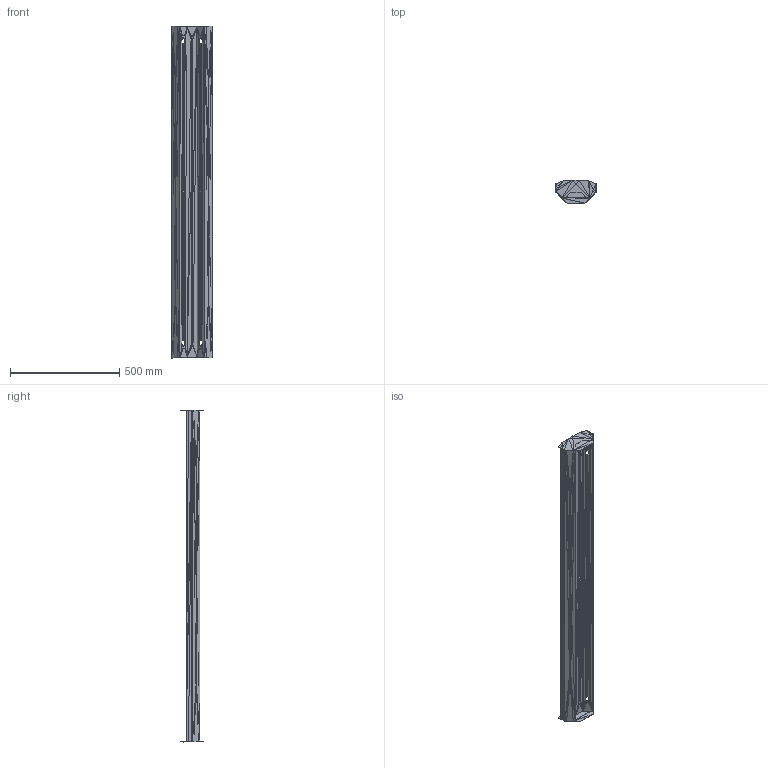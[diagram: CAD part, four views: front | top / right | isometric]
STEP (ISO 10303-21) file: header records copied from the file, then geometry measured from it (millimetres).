
FILE_DESCRIPTION((''),'2;1');
FILE_NAME('053419', '2026-07-10T13:55:47', (''), (''), 'ImageToStl.com STEP Converter','', '');
FILE_SCHEMA(('AUTOMOTIVE_DESIGN_CC2'));
Length unit declared in the file: metre
Products named in the file (1): product0
Bounding box: 184.02 x 105.8 x 1520 mm (x, y, z)
Surface area: 964520.1 mm2 (no closed solid volume)
Topology: 0 solids, 1586 shells, 1586 faces, 4758 edges, 842 vertices
Faces by surface type: plane 1586
Entity records: 36604 total; most frequent: DIRECTION 7932, ORIENTED_EDGE 4758, EDGE_CURVE 4758, LINE 4758, VECTOR 4758, AXIS2_PLACEMENT_3D 1587, FACE_SURFACE 1586, PLANE 1586
